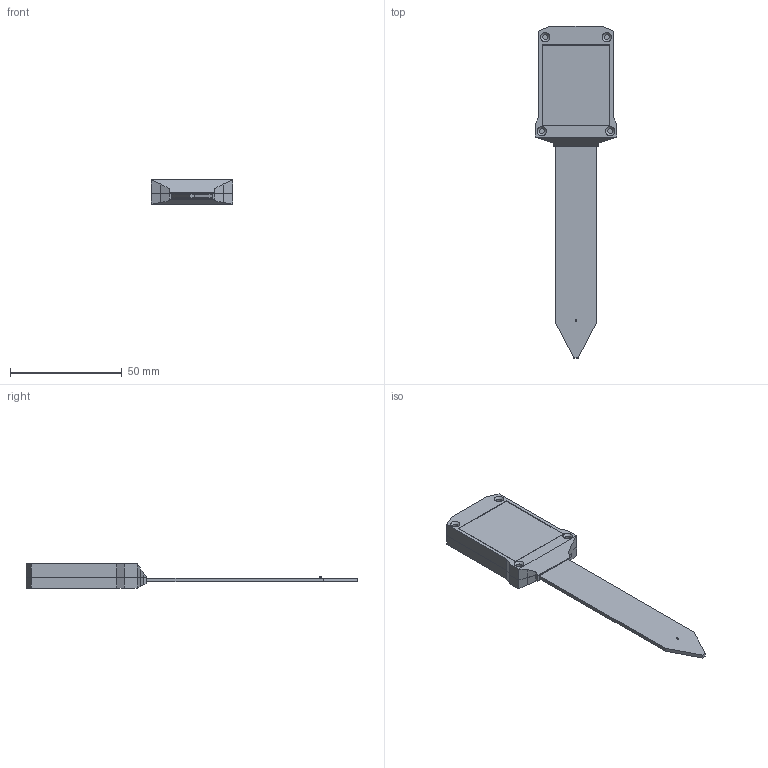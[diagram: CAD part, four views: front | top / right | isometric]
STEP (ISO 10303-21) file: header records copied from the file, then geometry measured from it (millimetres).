
FILE_DESCRIPTION(('Open CASCADE Model'),'2;1');
FILE_NAME('Open CASCADE Shape Model','2026-09-30T23:04:27',('Author'),( 'Open CASCADE'),'Open CASCADE STEP processor 8.0','Open CASCADE 8.0' ,'Unknown');
FILE_SCHEMA(('AP242_MANAGED_MODEL_BASED_3D_ENGINEERING_MIM_LF {1 0 10303 442 1 1 4 }' ));
Length unit declared in the file: millimetre
Products named in the file (6): MSV4 Integrated Solar Base; MSV4 Integrated Solar Lid; MSV4 Case Gasket; MSV4 PCB - Corrected 1.6 mm Reference; 10 x 20 x 2 mm Top-Side Battery Placement Reference; 36 x 30 mm Solar Panel Reference
Bounding box: 36.6 x 148.5 x 10.9 mm (x, y, z)
Volume: 15293 mm3; surface area: 22607.2 mm2
Topology: 238 solids, 238 shells, 3487 faces, 8773 edges, 5806 vertices
Faces by surface type: plane 2522, cylinder 473, bspline 368, extrusion 92, sphere 24, cone 4, torus 4
Full cylindrical faces by diameter (mm): 0.137 x2, 0.222 x2, 0.268 x2, 1.6 x2, 2.4 x8, 2.9 x4, 3.3 x4, 4.2 x4
Entity records: 228062 total; most frequent: CARTESIAN_POINT 54329, DIRECTION 29650, VECTOR 21049, LINE 20957, ORIENTED_EDGE 17546, PCURVE 17546, DEFINITIONAL_REPRESENTATION 17546, EDGE_CURVE 8773
